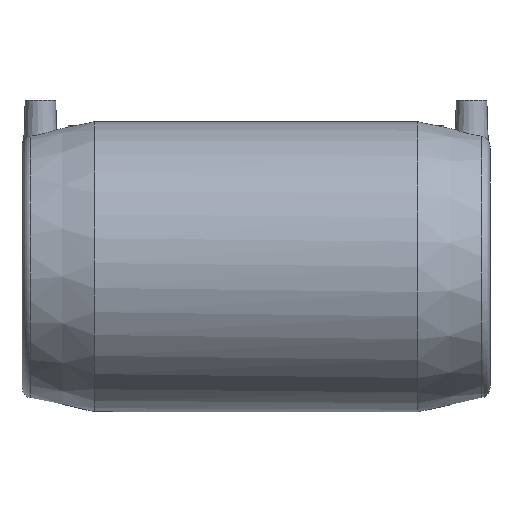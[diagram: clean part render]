
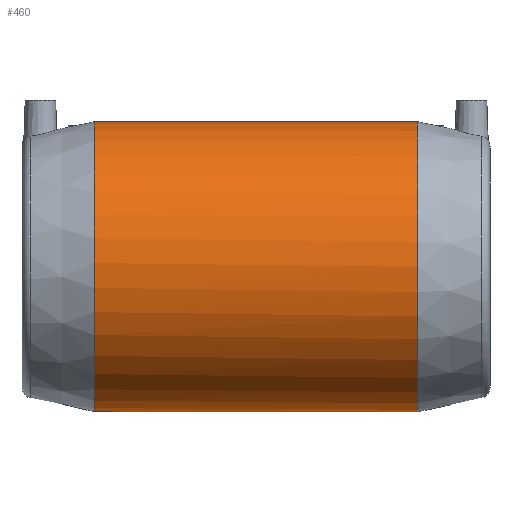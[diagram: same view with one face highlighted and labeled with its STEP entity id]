
A CAD part, front view. The second image highlights one B-rep face of the part: STEP entity #460.
In plain terms, the highlighted cylindrical face has radius 90.5 mm (diameter 181 mm), a full revolution.
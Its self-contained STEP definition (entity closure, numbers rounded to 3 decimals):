
#72=B_SPLINE_CURVE_WITH_KNOTS('',3,(#1169,#1170,#1171,#1172,#1173,#1174,
#1175,#1176,#1177,#1178,#1179,#1180,#1181,#1182,#1183,#1184,#1185,#1186,
#1187,#1188,#1189,#1190,#1191,#1192,#1193,#1194,#1195,#1196,#1197,#1198,
#1199,#1200,#1201,#1202,#1203,#1204,#1205,#1206,#1207,#1208,#1209,#1210,
#1211,#1212,#1213,#1214,#1215,#1216,#1217,#1218,#1219,#1220,#1221,#1222,
#1223,#1224,#1225,#1226,#1227,#1228,#1229,#1230,#1231,#1232,#1233,#1234,
#1235),.UNSPECIFIED.,.T.,.F.,(1,1,1,1,1,1,1,1,1,1,1,1,1,1,1,1,1,1,1,1,1,
1,1,1,1,1,1,1,1,1,1,1,1,1,1,1,1,1,1,1,1,1,1,1,1,1,1,1,1,1,1,1,1,1,1,1,1,
1,1,1,1,1,1,1,1,1,1,1,1,1,1),(-0.024,-0.016,-0.008,
0.,0.008,0.016,0.024,
0.032,0.049,0.057,0.065,
0.073,0.081,0.089,0.097,
0.105,0.113,0.121,0.129,
0.137,0.146,0.154,0.162,
0.17,0.178,0.186,0.194,0.202,
0.21,0.218,0.222,0.226,
0.234,0.243,0.251,0.259,
0.263,0.267,0.275,0.283,
0.291,0.307,0.315,0.323,
0.332,0.34,0.348,0.356,
0.364,0.372,0.38,0.388,0.396,
0.404,0.412,0.42,0.429,
0.437,0.445,0.453,0.461,
0.469,0.477,0.485,0.493,
0.501,0.509,0.517,0.526,
0.534,0.542),.UNSPECIFIED.);
#130=ORIENTED_EDGE('',*,*,#197,.T.);
#131=ORIENTED_EDGE('',*,*,#196,.F.);
#132=ORIENTED_EDGE('',*,*,#201,.T.);
#196=EDGE_CURVE('',#242,#242,#276,.T.);
#197=EDGE_CURVE('',#243,#243,#72,.T.);
#201=EDGE_CURVE('',#247,#247,#279,.T.);
#242=VERTEX_POINT('',#937);
#243=VERTEX_POINT('',#1236);
#247=VERTEX_POINT('',#1257);
#276=CIRCLE('',#526,90.5);
#279=CIRCLE('',#532,90.5);
#333=EDGE_LOOP('',(#130));
#334=EDGE_LOOP('',(#131));
#335=EDGE_LOOP('',(#132));
#403=FACE_BOUND('',#333,.T.);
#404=FACE_BOUND('',#334,.T.);
#405=FACE_BOUND('',#335,.T.);
#433=CYLINDRICAL_SURFACE('',#531,90.5);
#460=ADVANCED_FACE('',(#403,#404,#405),#433,.T.);
#526=AXIS2_PLACEMENT_3D('',#936,#634,#635);
#531=AXIS2_PLACEMENT_3D('',#1255,#644,#645);
#532=AXIS2_PLACEMENT_3D('',#1256,#646,#647);
#634=DIRECTION('',(-1.,0.,0.));
#635=DIRECTION('',(0.,0.,1.));
#644=DIRECTION('',(-1.,0.,0.));
#645=DIRECTION('',(0.,0.,1.));
#646=DIRECTION('',(-1.,0.,0.));
#647=DIRECTION('',(0.,0.,1.));
#936=CARTESIAN_POINT('',(-101.,0.,0.));
#937=CARTESIAN_POINT('',(-101.,0.,90.5));
#1169=CARTESIAN_POINT('',(78.692,90.258,-8.098));
#1170=CARTESIAN_POINT('',(79.154,90.621,0.001));
#1171=CARTESIAN_POINT('',(78.692,90.258,8.095));
#1172=CARTESIAN_POINT('',(77.321,89.187,16.013));
#1173=CARTESIAN_POINT('',(75.151,87.503,23.514));
#1174=CARTESIAN_POINT('',(71.2,84.473,33.13));
#1175=CARTESIAN_POINT('',(66.001,80.571,41.633));
#1176=CARTESIAN_POINT('',(59.723,76.063,49.176));
#1177=CARTESIAN_POINT('',(54.637,72.542,54.219));
#1178=CARTESIAN_POINT('',(49.154,68.922,58.742));
#1179=CARTESIAN_POINT('',(43.26,65.265,62.769));
#1180=CARTESIAN_POINT('',(36.938,61.664,66.298));
#1181=CARTESIAN_POINT('',(30.306,58.31,69.253));
#1182=CARTESIAN_POINT('',(23.274,55.305,71.663));
#1183=CARTESIAN_POINT('',(15.748,52.842,73.485));
#1184=CARTESIAN_POINT('',(7.984,51.226,74.61));
#1185=CARTESIAN_POINT('',(-0.145,50.656,74.994));
#1186=CARTESIAN_POINT('',(-8.095,51.245,74.598));
#1187=CARTESIAN_POINT('',(-15.989,52.906,73.44));
#1188=CARTESIAN_POINT('',(-23.381,55.35,71.629));
#1189=CARTESIAN_POINT('',(-30.45,58.374,69.2));
#1190=CARTESIAN_POINT('',(-37.123,61.765,66.204));
#1191=CARTESIAN_POINT('',(-43.35,65.32,62.71));
#1192=CARTESIAN_POINT('',(-49.209,68.957,58.701));
#1193=CARTESIAN_POINT('',(-54.747,72.616,54.124));
#1194=CARTESIAN_POINT('',(-59.856,76.158,49.027));
#1195=CARTESIAN_POINT('',(-64.467,79.47,43.467));
#1196=CARTESIAN_POINT('',(-67.905,82.009,38.396));
#1197=CARTESIAN_POINT('',(-70.389,83.873,34.058));
#1198=CARTESIAN_POINT('',(-72.698,85.621,29.494));
#1199=CARTESIAN_POINT('',(-75.142,87.496,23.531));
#1200=CARTESIAN_POINT('',(-77.32,89.186,16.027));
#1201=CARTESIAN_POINT('',(-78.694,90.26,8.064));
#1202=CARTESIAN_POINT('',(-79.074,90.558,1.396));
#1203=CARTESIAN_POINT('',(-78.928,90.443,-3.966));
#1204=CARTESIAN_POINT('',(-78.47,90.085,-9.362));
#1205=CARTESIAN_POINT('',(-77.348,89.207,-15.884));
#1206=CARTESIAN_POINT('',(-75.197,87.538,-23.385));
#1207=CARTESIAN_POINT('',(-71.255,84.515,-33.023));
#1208=CARTESIAN_POINT('',(-66.08,80.629,-41.521));
#1209=CARTESIAN_POINT('',(-59.805,76.121,-49.087));
#1210=CARTESIAN_POINT('',(-54.72,72.599,-54.144));
#1211=CARTESIAN_POINT('',(-49.24,68.977,-58.677));
#1212=CARTESIAN_POINT('',(-43.355,65.322,-62.71));
#1213=CARTESIAN_POINT('',(-37.031,61.714,-66.252));
#1214=CARTESIAN_POINT('',(-30.396,58.352,-69.218));
#1215=CARTESIAN_POINT('',(-23.369,55.341,-71.636));
#1216=CARTESIAN_POINT('',(-15.841,52.867,-73.467));
#1217=CARTESIAN_POINT('',(-8.078,51.24,-74.601));
#1218=CARTESIAN_POINT('',(0.056,50.656,-74.994));
#1219=CARTESIAN_POINT('',(8.013,51.233,-74.606));
#1220=CARTESIAN_POINT('',(15.913,52.885,-73.455));
#1221=CARTESIAN_POINT('',(23.317,55.325,-71.648));
#1222=CARTESIAN_POINT('',(30.387,58.345,-69.225));
#1223=CARTESIAN_POINT('',(37.073,61.737,-66.229));
#1224=CARTESIAN_POINT('',(43.306,65.294,-62.737));
#1225=CARTESIAN_POINT('',(49.171,68.932,-58.73));
#1226=CARTESIAN_POINT('',(54.709,72.59,-54.158));
#1227=CARTESIAN_POINT('',(59.83,76.139,-49.057));
#1228=CARTESIAN_POINT('',(64.447,79.456,-43.493));
#1229=CARTESIAN_POINT('',(68.57,82.5,-37.42));
#1230=CARTESIAN_POINT('',(72.186,85.229,-30.735));
#1231=CARTESIAN_POINT('',(75.136,87.491,-23.553));
#1232=CARTESIAN_POINT('',(77.314,89.181,-16.05));
#1233=CARTESIAN_POINT('',(78.692,90.258,-8.098));
#1234=CARTESIAN_POINT('',(79.154,90.621,0.001));
#1235=CARTESIAN_POINT('',(78.692,90.258,8.095));
#1236=CARTESIAN_POINT('',(79.,90.5,0.));
#1255=CARTESIAN_POINT('',(-60.,0.,0.));
#1256=CARTESIAN_POINT('',(101.,0.,0.));
#1257=CARTESIAN_POINT('',(101.,0.,90.5));
